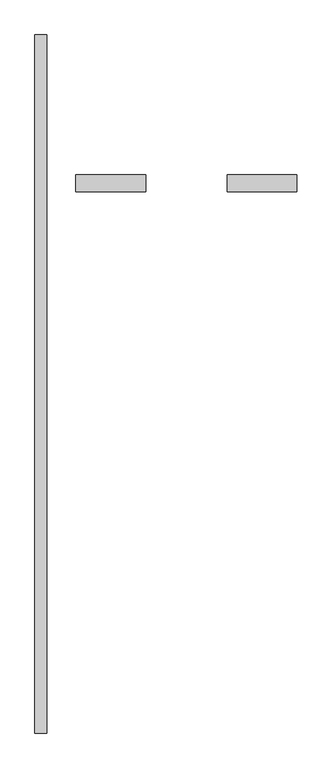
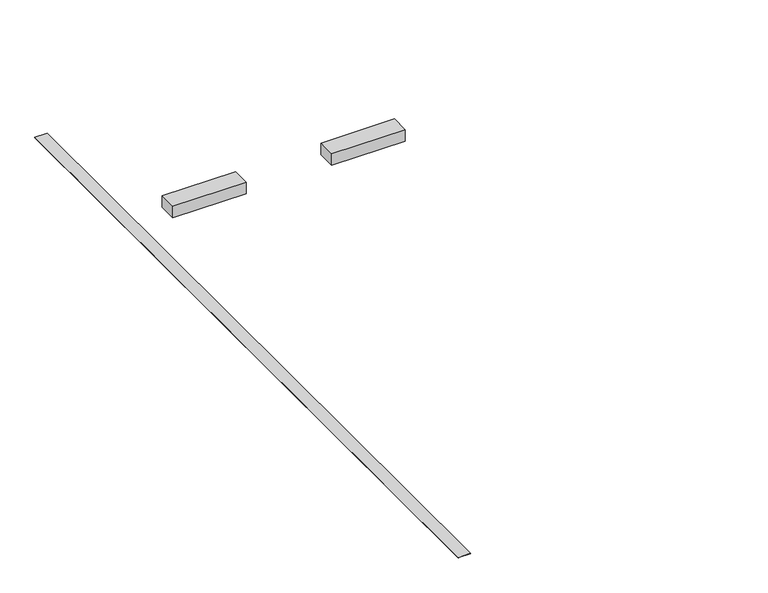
"""IFC4 building model written with IfcOpenShell, lengths in millimetres: proxy geometry, 駐車場スペース : 4800 x 2400 mm - 90 度."""

import ifcopenshell
import ifcopenshell.guid

model = None  # the IFC model being written
_history = None  # IfcOwnerHistory: only IFC2X3 demands one
_inside = {}  # id of a spatial element -> (the spatial element, [elements in it])
_under = {}  # id of a project, library or spatial element -> (it, [spatial elements below it])
_declared = {}  # id of a project -> (the project, [libraries it declares])
_typed = {}  # id of a type object -> (the type object, [elements of that type])
_made_of = {}  # id of a material, layer set ... -> (it, [elements and type objects made of it])


def new_model(schema):
    """Start an empty IFC model of exactly this schema.

    Asked for "IFC4X3", IfcOpenShell would pick the latest addendum, in which some entities
    have other attributes; the version numbers below select the first issue.
    IFC2X3 requires an IfcOwnerHistory on every rooted entity: one is made here for all.
    """
    global model, _history
    if schema == "IFC4X3":
        model = ifcopenshell.file(schema_version=(4, 3, 0, 0))
    else:
        model = ifcopenshell.file(schema=schema)
    _inside.clear()
    _under.clear()
    _declared.clear()
    _typed.clear()
    _made_of.clear()
    _history = None
    if model.schema == "IFC2X3":
        org = make("IfcOrganization", Name="unknown")
        user = make(
            "IfcPersonAndOrganization",
            ThePerson=make("IfcPerson", FamilyName="unknown"),
            TheOrganization=org,
        )
        app = make(
            "IfcApplication",
            ApplicationDeveloper=org,
            Version="unknown",
            ApplicationFullName="unknown",
            ApplicationIdentifier="unknown",
        )
        _history = make(
            "IfcOwnerHistory",
            OwningUser=user,
            OwningApplication=app,
            ChangeAction="ADDED",
            CreationDate=0,
        )
    return model


def make(cls, **values):
    """One entity of the class cls with the attributes given. An attribute that is None is left unset."""
    return model.create_entity(
        cls, **{name: value for name, value in values.items() if value is not None}
    )


def rooted(cls, **values):
    """An entity with a GlobalId (a new one), such as an element, a storey or a relation."""
    return make(cls, GlobalId=ifcopenshell.guid.new(), OwnerHistory=_history, **values)


def si_unit(unit_type, name, prefix=None):
    """IfcSIUnit, for example si_unit("LENGTHUNIT", "METRE", prefix="MILLI")."""
    return make("IfcSIUnit", UnitType=unit_type, Prefix=prefix, Name=name)


def assignment(units):
    """IfcUnitAssignment: the units of a project."""
    return None if units is None else make("IfcUnitAssignment", Units=units)


def point(xyz):
    """IfcCartesianPoint."""
    return None if xyz is None else make("IfcCartesianPoint", Coordinates=xyz)


def direction(xyz):
    """IfcDirection."""
    return None if xyz is None else make("IfcDirection", DirectionRatios=xyz)


def frame(location, z_axis=None, x_axis=None):
    """IfcAxis2Placement3D, a coordinate frame: its origin and axes. An axis left out is left unset."""
    return make(
        "IfcAxis2Placement3D",
        Location=point(location),
        Axis=direction(z_axis),
        RefDirection=direction(x_axis),
    )


def origin():
    """The frame at (0, 0, 0) with its axes left unset."""
    return frame((0.0, 0.0, 0.0))


def origin_with_axes():
    """The frame at (0, 0, 0) with the z axis (0, 0, 1) and the x axis (1, 0, 0) written out."""
    return frame((0.0, 0.0, 0.0), z_axis=(0.0, 0.0, 1.0), x_axis=(1.0, 0.0, 0.0))


def place(relative_to, where):
    """IfcLocalPlacement: puts the frame where relative to a parent placement (None: the world)."""
    return make(
        "IfcLocalPlacement", PlacementRelTo=relative_to, RelativePlacement=where
    )


def context(
    kind, dimensions, precision=None, world=None, true_north=None, identifier=None
):
    """IfcGeometricRepresentationContext, for example the 3D "Model" context."""
    return make(
        "IfcGeometricRepresentationContext",
        ContextIdentifier=identifier,
        ContextType=kind,
        CoordinateSpaceDimension=dimensions,
        Precision=precision,
        WorldCoordinateSystem=world,
        TrueNorth=true_north,
    )


def project(units=None, contexts=None):
    """IfcProject with its units and contexts."""
    return rooted(
        "IfcProject",
        Name="project",
        RepresentationContexts=contexts,
        UnitsInContext=assignment(units),
    )


def spatial(cls, under=None, at=None, **own):
    """A site, building, storey or space (cls), placed at a placement, below another one or the project."""
    s = rooted(cls, ObjectPlacement=at, **own)
    if under is not None:
        _under.setdefault(under.id(), (under, []))[1].append(s)
    return s


def polyline(points):
    """IfcPolyline through the points."""
    return make("IfcPolyline", Points=[point(p) for p in points])


def outline(outer, holes=None, kind="AREA"):
    """IfcArbitraryClosedProfileDef: a profile drawn as a closed curve; with holes, ...WithVoids."""
    if holes is None:
        return make("IfcArbitraryClosedProfileDef", ProfileType=kind, OuterCurve=outer)
    return make(
        "IfcArbitraryProfileDefWithVoids",
        ProfileType=kind,
        OuterCurve=outer,
        InnerCurves=holes,
    )


def extrude(swept, where, along, depth):
    """IfcExtrudedAreaSolid: the profile swept, set in the frame where, extruded along a direction by depth."""
    return make(
        "IfcExtrudedAreaSolid",
        SweptArea=swept,
        Position=where,
        ExtrudedDirection=direction(along),
        Depth=depth,
    )


def shape(context_of_items, identifier, shape_type, items):
    """IfcShapeRepresentation: the items that make up one representation, for example the "Body"."""
    return make(
        "IfcShapeRepresentation",
        ContextOfItems=context_of_items,
        RepresentationIdentifier=identifier,
        RepresentationType=shape_type,
        Items=items,
    )


def source(mapping_origin, context_of_items, identifier, shape_type, items):
    """IfcRepresentationMap: a shape defined once, which mapped items show again and again."""
    return make(
        "IfcRepresentationMap",
        MappingOrigin=mapping_origin,
        MappedRepresentation=shape(context_of_items, identifier, shape_type, items),
    )


def transform(
    local_origin,
    x_axis=None,
    y_axis=None,
    z_axis=None,
    scale=None,
    scale2=None,
    scale3=None,
    uniform=True,
):
    """IfcCartesianTransformationOperator3D, or its non-uniform kind. x_axis, y_axis, z_axis: its Axis1, 2, 3."""
    if uniform:
        return make(
            "IfcCartesianTransformationOperator3D",
            Axis1=direction(x_axis),
            Axis2=direction(y_axis),
            LocalOrigin=point(local_origin),
            Scale=scale,
            Axis3=direction(z_axis),
        )
    return make(
        "IfcCartesianTransformationOperator3DnonUniform",
        Axis1=direction(x_axis),
        Axis2=direction(y_axis),
        LocalOrigin=point(local_origin),
        Scale=scale,
        Axis3=direction(z_axis),
        Scale2=scale2,
        Scale3=scale3,
    )


def mapped(mapping_source, mapping_target):
    """IfcMappedItem: shows the shape of a source again, moved by a transform."""
    return make(
        "IfcMappedItem", MappingSource=mapping_source, MappingTarget=mapping_target
    )


def made_of(thing, what):
    """Note that an element or type object is made of a material, layer set ...; save() writes the relation."""
    if what is not None:
        _made_of.setdefault(what.id(), (what, []))[1].append(thing)
    return thing


def element(
    cls,
    number,
    at=None,
    inside=None,
    cuts=None,
    type_object=None,
    material=None,
    context=None,
    identifier="Body",
    shape_type=None,
    held_by="IfcProductDefinitionShape",
    body=None,
    shapes=None,
    **own,
):
    """One element of the class cls, such as IfcWall. Its Tag is "e" and its number.

    at: its placement. inside: the storey or other place that contains it. cuts: it is an
    opening in that element (IfcRelVoidsElement). A single representation is given by context,
    identifier, shape_type and body (its items); several are given by shapes. held_by: the class
    of the entity that holds the representations. save() writes the other relations.
    """
    e = rooted(cls, Tag="e%d" % number, ObjectPlacement=at, **own)
    if body is not None:
        shapes = [shape(context, identifier, shape_type, body)]
    if shapes is not None:
        e.Representation = make(held_by, Representations=shapes)
    if inside is not None:
        _inside.setdefault(inside.id(), (inside, []))[1].append(e)
    if cuts is not None:
        rooted(
            "IfcRelVoidsElement", RelatingBuildingElement=cuts, RelatedOpeningElement=e
        )
    if type_object is not None:
        _typed.setdefault(type_object.id(), (type_object, []))[1].append(e)
    return made_of(e, material)


def aggregate(whole, parts):
    """IfcRelAggregates: a whole, such as a stair, and the parts it consists of."""
    return rooted("IfcRelAggregates", RelatingObject=whole, RelatedObjects=parts)


def save(model, path):
    """Write the relations noted so far, then the file.

    IfcRelAggregates (storeys below a building ...), IfcRelContainedInSpatialStructure (elements
    in a storey), IfcRelDefinesByType, IfcRelAssociatesMaterial and IfcRelDeclares: one each for
    every whole, place, type object, material and project.
    """
    for whole, parts in _under.values():
        aggregate(whole, parts)
    for where, things in _inside.values():
        rooted(
            "IfcRelContainedInSpatialStructure",
            RelatedElements=things,
            RelatingStructure=where,
        )
    for kind, things in _typed.values():
        rooted("IfcRelDefinesByType", RelatedObjects=things, RelatingType=kind)
    for what, things in _made_of.values():
        rooted("IfcRelAssociatesMaterial", RelatedObjects=things, RelatingMaterial=what)
    for by, libraries in _declared.values():
        rooted("IfcRelDeclares", RelatingContext=by, RelatedDefinitions=libraries)
    model.write(path)


def parking_f053e08a(model_context):
    return source(origin(), model_context, "Body", "SweptSolid", [
        extrude(outline(polyline([(900.0, -1200.0), (900.0, -1350.0), (300.0, -1350.0), (300.0, -1200.0), (900.0, -1200.0)])), origin_with_axes(), (0.0, 0.0, 1.0), 100.0),
        extrude(outline(polyline([(2200.0, -1200.0), (2200.0, -1350.0), (1600.0, -1350.0), (1600.0, -1200.0), (2200.0, -1200.0)])), origin_with_axes(), (0.0, 0.0, 1.0), 100.0),
        extrude(outline(polyline([(-50.8, 0.0), (50.8, 0.0), (50.8, -6000.0), (-50.8, -6000.0), (-50.8, 0.0)])), origin_with_axes(), (0.0, 0.0, 1.0), 3.175),
    ])


if __name__ == "__main__":
    model = new_model("IFC4")
    model_context = context("Model", 3, world=origin())
    ifc_project = project(units=[si_unit("LENGTHUNIT", "METRE", prefix="MILLI")], contexts=[model_context])
    site = spatial("IfcSite", under=ifc_project)
    building = spatial("IfcBuilding", under=site)
    placement = place(None, origin())
    parking_shape = parking_f053e08a(model_context)
    element("IfcBuildingElementProxy", 1, Name="駐車場スペース : 4800 x 2400 mm - 90 度", ObjectType="駐車場スペース : 4800 x 2400 mm - 90 度", at=placement, inside=building, context=model_context, shape_type="MappedRepresentation", body=[
        mapped(parking_shape, transform((0.0, 0.0, 0.0), x_axis=(1.0, 0.0, 0.0), y_axis=(0.0, 1.0, 0.0), z_axis=(0.0, 0.0, 1.0))),
    ])
    save(model, "model.ifc")
